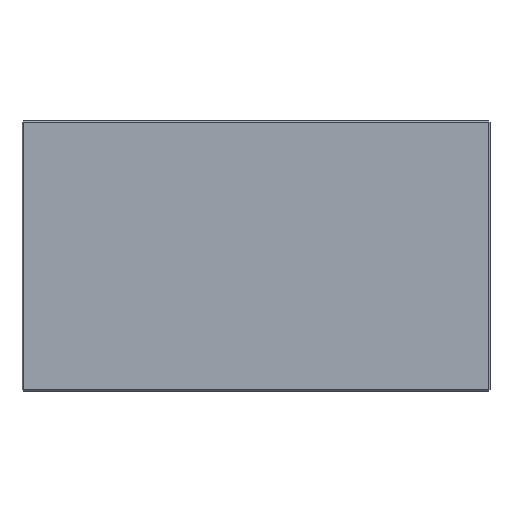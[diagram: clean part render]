
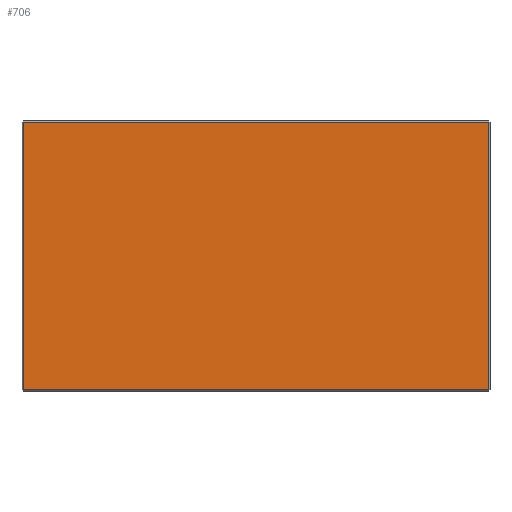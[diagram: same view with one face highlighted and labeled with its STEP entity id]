
A CAD part, top view. The second image highlights one B-rep face of the part: STEP entity #706.
In plain terms, the highlighted planar face has unit normal (0, 0, 1).
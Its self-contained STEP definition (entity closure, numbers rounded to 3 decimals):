
#126 = PLANE('',#127);
#127 = AXIS2_PLACEMENT_3D('',#128,#129,#130);
#128 = CARTESIAN_POINT('',(-65.8,-38.1,14.));
#129 = DIRECTION('',(0.707,0.,-0.707)
  );
#130 = DIRECTION('',(0.,1.,0.));
#309 = VERTEX_POINT('',#310);
#310 = CARTESIAN_POINT('',(-65.6,-37.7,14.2));
#333 = VERTEX_POINT('',#334);
#334 = CARTESIAN_POINT('',(-65.6,37.7,14.2));
#360 = EDGE_CURVE('',#309,#333,#361,.T.);
#361 = SURFACE_CURVE('',#362,(#366,#373),.PCURVE_S1.);
#362 = LINE('',#363,#364);
#363 = CARTESIAN_POINT('',(-65.6,-38.1,14.2));
#364 = VECTOR('',#365,1.);
#365 = DIRECTION('',(0.,1.,0.));
#366 = PCURVE('',#126,#367);
#367 = DEFINITIONAL_REPRESENTATION('',(#368),#372);
#368 = LINE('',#369,#370);
#369 = CARTESIAN_POINT('',(0.,0.283));
#370 = VECTOR('',#371,1.);
#371 = DIRECTION('',(1.,0.));
#372 = ( GEOMETRIC_REPRESENTATION_CONTEXT(2) 
PARAMETRIC_REPRESENTATION_CONTEXT() REPRESENTATION_CONTEXT('2D SPACE',''
  ) );
#373 = PCURVE('',#374,#379);
#374 = PLANE('',#375);
#375 = AXIS2_PLACEMENT_3D('',#376,#377,#378);
#376 = CARTESIAN_POINT('',(-66.,-38.1,14.2));
#377 = DIRECTION('',(0.,0.,1.));
#378 = DIRECTION('',(1.,0.,0.));
#379 = DEFINITIONAL_REPRESENTATION('',(#380),#384);
#380 = LINE('',#381,#382);
#381 = CARTESIAN_POINT('',(0.4,0.));
#382 = VECTOR('',#383,1.);
#383 = DIRECTION('',(0.,1.));
#384 = ( GEOMETRIC_REPRESENTATION_CONTEXT(2) 
PARAMETRIC_REPRESENTATION_CONTEXT() REPRESENTATION_CONTEXT('2D SPACE',''
  ) );
#511 = PLANE('',#512);
#512 = AXIS2_PLACEMENT_3D('',#513,#514,#515);
#513 = CARTESIAN_POINT('',(-66.,-37.9,14.));
#514 = DIRECTION('',(0.,0.707,-0.707));
#515 = DIRECTION('',(-1.,-0.,-0.));
#706 = ADVANCED_FACE('',(#707),#374,.T.);
#707 = FACE_BOUND('',#708,.T.);
#708 = EDGE_LOOP('',(#709,#710,#733,#761));
#709 = ORIENTED_EDGE('',*,*,#360,.F.);
#710 = ORIENTED_EDGE('',*,*,#711,.T.);
#711 = EDGE_CURVE('',#309,#712,#714,.T.);
#712 = VERTEX_POINT('',#713);
#713 = CARTESIAN_POINT('',(65.6,-37.7,14.2));
#714 = SURFACE_CURVE('',#715,(#719,#726),.PCURVE_S1.);
#715 = LINE('',#716,#717);
#716 = CARTESIAN_POINT('',(-66.,-37.7,14.2));
#717 = VECTOR('',#718,1.);
#718 = DIRECTION('',(1.,0.,0.));
#719 = PCURVE('',#374,#720);
#720 = DEFINITIONAL_REPRESENTATION('',(#721),#725);
#721 = LINE('',#722,#723);
#722 = CARTESIAN_POINT('',(0.,0.4));
#723 = VECTOR('',#724,1.);
#724 = DIRECTION('',(1.,0.));
#725 = ( GEOMETRIC_REPRESENTATION_CONTEXT(2) 
PARAMETRIC_REPRESENTATION_CONTEXT() REPRESENTATION_CONTEXT('2D SPACE',''
  ) );
#726 = PCURVE('',#511,#727);
#727 = DEFINITIONAL_REPRESENTATION('',(#728),#732);
#728 = LINE('',#729,#730);
#729 = CARTESIAN_POINT('',(-0.,0.283));
#730 = VECTOR('',#731,1.);
#731 = DIRECTION('',(-1.,0.));
#732 = ( GEOMETRIC_REPRESENTATION_CONTEXT(2) 
PARAMETRIC_REPRESENTATION_CONTEXT() REPRESENTATION_CONTEXT('2D SPACE',''
  ) );
#733 = ORIENTED_EDGE('',*,*,#734,.T.);
#734 = EDGE_CURVE('',#712,#735,#737,.T.);
#735 = VERTEX_POINT('',#736);
#736 = CARTESIAN_POINT('',(65.6,37.7,14.2));
#737 = SURFACE_CURVE('',#738,(#742,#749),.PCURVE_S1.);
#738 = LINE('',#739,#740);
#739 = CARTESIAN_POINT('',(65.6,-38.1,14.2));
#740 = VECTOR('',#741,1.);
#741 = DIRECTION('',(0.,1.,0.));
#742 = PCURVE('',#374,#743);
#743 = DEFINITIONAL_REPRESENTATION('',(#744),#748);
#744 = LINE('',#745,#746);
#745 = CARTESIAN_POINT('',(131.6,0.));
#746 = VECTOR('',#747,1.);
#747 = DIRECTION('',(0.,1.));
#748 = ( GEOMETRIC_REPRESENTATION_CONTEXT(2) 
PARAMETRIC_REPRESENTATION_CONTEXT() REPRESENTATION_CONTEXT('2D SPACE',''
  ) );
#749 = PCURVE('',#750,#755);
#750 = PLANE('',#751);
#751 = AXIS2_PLACEMENT_3D('',#752,#753,#754);
#752 = CARTESIAN_POINT('',(65.8,-38.1,14.));
#753 = DIRECTION('',(0.707,0.,0.707)
  );
#754 = DIRECTION('',(0.,1.,0.));
#755 = DEFINITIONAL_REPRESENTATION('',(#756),#760);
#756 = LINE('',#757,#758);
#757 = CARTESIAN_POINT('',(0.,0.283));
#758 = VECTOR('',#759,1.);
#759 = DIRECTION('',(1.,0.));
#760 = ( GEOMETRIC_REPRESENTATION_CONTEXT(2) 
PARAMETRIC_REPRESENTATION_CONTEXT() REPRESENTATION_CONTEXT('2D SPACE',''
  ) );
#761 = ORIENTED_EDGE('',*,*,#762,.F.);
#762 = EDGE_CURVE('',#333,#735,#763,.T.);
#763 = SURFACE_CURVE('',#764,(#768,#775),.PCURVE_S1.);
#764 = LINE('',#765,#766);
#765 = CARTESIAN_POINT('',(-66.,37.7,14.2));
#766 = VECTOR('',#767,1.);
#767 = DIRECTION('',(1.,0.,0.));
#768 = PCURVE('',#374,#769);
#769 = DEFINITIONAL_REPRESENTATION('',(#770),#774);
#770 = LINE('',#771,#772);
#771 = CARTESIAN_POINT('',(0.,75.8));
#772 = VECTOR('',#773,1.);
#773 = DIRECTION('',(1.,0.));
#774 = ( GEOMETRIC_REPRESENTATION_CONTEXT(2) 
PARAMETRIC_REPRESENTATION_CONTEXT() REPRESENTATION_CONTEXT('2D SPACE',''
  ) );
#775 = PCURVE('',#776,#781);
#776 = PLANE('',#777);
#777 = AXIS2_PLACEMENT_3D('',#778,#779,#780);
#778 = CARTESIAN_POINT('',(-66.,37.9,14.));
#779 = DIRECTION('',(0.,0.707,0.707));
#780 = DIRECTION('',(-1.,-0.,0.));
#781 = DEFINITIONAL_REPRESENTATION('',(#782),#786);
#782 = LINE('',#783,#784);
#783 = CARTESIAN_POINT('',(-0.,0.283));
#784 = VECTOR('',#785,1.);
#785 = DIRECTION('',(-1.,0.));
#786 = ( GEOMETRIC_REPRESENTATION_CONTEXT(2) 
PARAMETRIC_REPRESENTATION_CONTEXT() REPRESENTATION_CONTEXT('2D SPACE',''
  ) );
